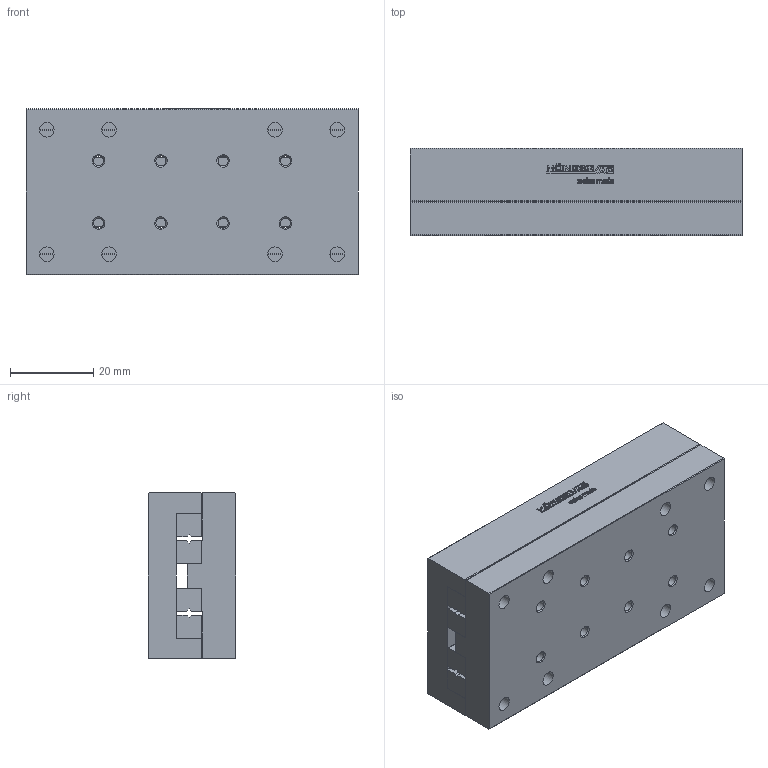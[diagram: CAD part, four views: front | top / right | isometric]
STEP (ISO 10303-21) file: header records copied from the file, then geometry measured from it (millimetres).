
FILE_DESCRIPTION(/* description */ ('STEP AP214'),/* implementation_level */ '2;1');
FILE_NAME(/* name */ 'NKL 2-80(0)',/* time_stamp */ '2025-04-23T07:58:01+02:00',/* author */ ('License CC BY-ND 4.0'),/* organization */ ('CADENAS'),/* preprocessor_version */ 'ST-DEVELOPER v19.3',/* originating_system */ 'PARTsolutions',/* authorisation */ ' ');
FILE_SCHEMA (('INTEGRATED_CNC_SCHEMA','AUTOMOTIVE_DESIGN {1 0 10303 214 3 1 1}'));
Length unit declared in the file: millimetre
Products named in the file (3): NKL 2-80(0); NKL 2-80_1; NKL 2-80_2
Assembly tree (2 placements, depth 2):
  NKL 2-80(0)
    NKL 2-80_1
    NKL 2-80_2
Bounding box: 80 x 21 x 40 mm (x, y, z)
Volume: 62620.5 mm3; surface area: 25054 mm2
Topology: 2 solids, 2 shells, 657 faces, 1818 edges, 1192 vertices
Faces by surface type: cylinder 324, plane 301, cone 32
Full cylindrical faces by diameter (mm): 2.459 x16, 3.5 x8, 6 x8
Entity records: 20931 total; most frequent: DIRECTION 3754, CARTESIAN_POINT 3638, ORIENTED_EDGE 3492, EDGE_CURVE 1746, AXIS2_PLACEMENT_3D 1364, VERTEX_POINT 1184, LINE 1026, VECTOR 1026
